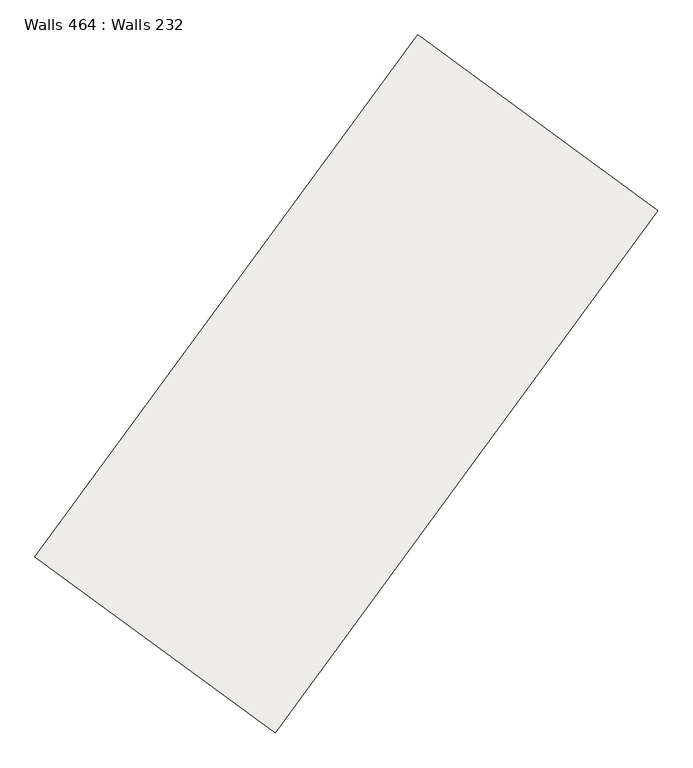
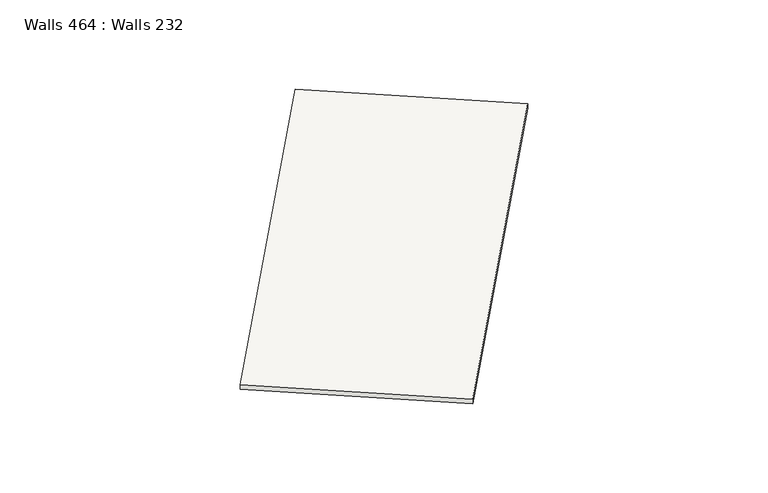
"""IFC4 building model written with IfcOpenShell, lengths in millimetres: slab geometry, Walls 464 : Walls 232."""

from ifc_helpers import new_model, si_unit, frame, origin, place, context, project, spatial, polyline, outline, extrude, source, transform, mapped, element, save


def walls_464_walls_232_5f64f8f2(model_context):
    return source(origin(), model_context, "Body", "SweptSolid", [
        extrude(outline(polyline([(-50.0, 0.0), (50.0, 0.0), (-62.2, -8699.9999993), (-162.2, -8699.9999993), (-50.0, 0.0)])), frame((444976.3444032, 325494.7920735, 645873.6), z_axis=(-0.8067016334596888, 0.5909589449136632, 0.0), x_axis=(0.0, 0.0, 1.0)), (0.0, 0.0, 1.0), 4000.0),
    ])


if __name__ == "__main__":
    model = new_model("IFC4")
    model_context = context("Model", 3, world=origin())
    ifc_project = project(units=[si_unit("LENGTHUNIT", "METRE", prefix="MILLI")], contexts=[model_context])
    site = spatial("IfcSite", under=ifc_project)
    building = spatial("IfcBuilding", under=site)
    placement = place(None, origin())
    walls_464_walls_232_shape = walls_464_walls_232_5f64f8f2(model_context)
    element("IfcSlab", 1, ObjectType="Walls 464 : Walls 232", at=placement, inside=building, context=model_context, shape_type="MappedRepresentation", body=[
        mapped(walls_464_walls_232_shape, transform((0.0, 0.0, 0.0), x_axis=(1.0, 0.0, 0.0), y_axis=(0.0, 1.0, 0.0), z_axis=(0.0, 0.0, 1.0))),
    ])
    save(model, "model.ifc")
